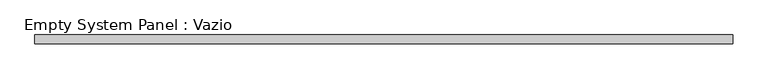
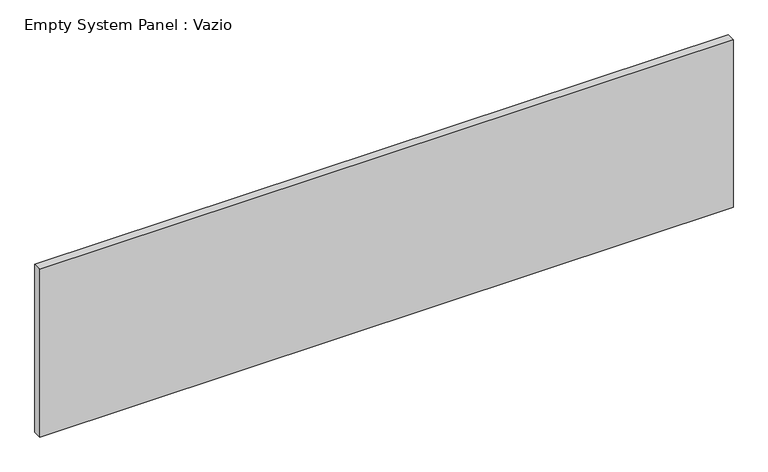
"""IFC4 building model written with IfcOpenShell, lengths in millimetres: plate geometry, Empty System Panel : Vazio."""

from ifc_helpers import new_model, si_unit, origin, origin_with_axes, place, context, project, spatial, polyline, outline, extrude, source, transform, mapped, element, save


def empty_system_panel_vazio_9a4384e5(model_context):
    return source(origin(), model_context, "Body", "SweptSolid", [
        extrude(outline(polyline([(4000.0, 50.0), (-4000.0, 50.0), (-4000.0, 150.0), (4000.0, 150.0), (4000.0, 50.0)])), origin_with_axes(), (0.0, 0.0, 1.0), 2044.7124512),
    ])


if __name__ == "__main__":
    model = new_model("IFC4")
    model_context = context("Model", 3, world=origin())
    ifc_project = project(units=[si_unit("LENGTHUNIT", "METRE", prefix="MILLI")], contexts=[model_context])
    site = spatial("IfcSite", under=ifc_project)
    building = spatial("IfcBuilding", under=site)
    placement = place(None, origin())
    empty_system_panel_vazio_shape = empty_system_panel_vazio_9a4384e5(model_context)
    element("IfcPlate", 1, ObjectType="Empty System Panel : Vazio", at=placement, inside=building, context=model_context, shape_type="MappedRepresentation", body=[
        mapped(empty_system_panel_vazio_shape, transform((0.0, 0.0, 0.0), x_axis=(1.0, 0.0, 0.0), y_axis=(0.0, 1.0, 0.0), z_axis=(0.0, 0.0, 1.0))),
    ])
    save(model, "model.ifc")
